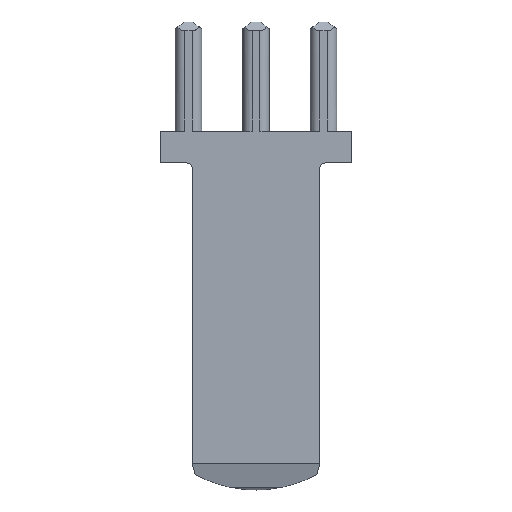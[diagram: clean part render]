
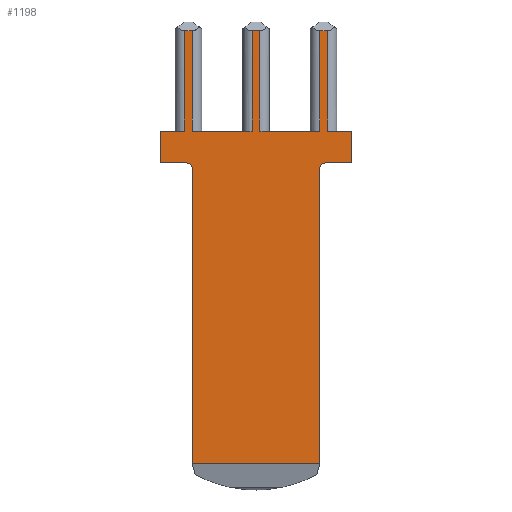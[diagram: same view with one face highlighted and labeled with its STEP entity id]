
A CAD part, front view. The second image highlights one B-rep face of the part: STEP entity #1198.
In plain terms, the highlighted planar face has unit normal (0, -1, 0).
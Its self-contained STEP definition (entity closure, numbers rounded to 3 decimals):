
#163=DIRECTION('',(1.,0.,0.));
#164=VECTOR('',#163,4.8);
#165=CARTESIAN_POINT('',(-2.4,-0.4,-16.6));
#166=LINE('',#165,#164);
#167=DIRECTION('',(0.,0.,1.));
#168=VECTOR('',#167,11.1);
#169=CARTESIAN_POINT('',(-2.4,-0.4,-16.6));
#170=LINE('',#169,#168);
#171=CARTESIAN_POINT('',(-2.6,-0.4,-5.5));
#172=DIRECTION('',(0.,-1.,0.));
#173=DIRECTION('',(1.,0.,0.));
#174=AXIS2_PLACEMENT_3D('',#171,#172,#173);
#176=DIRECTION('',(-1.,0.,0.));
#177=VECTOR('',#176,1.);
#178=CARTESIAN_POINT('',(-2.6,-0.4,-5.3));
#179=LINE('',#178,#177);
#180=DIRECTION('',(0.,0.,1.));
#181=VECTOR('',#180,1.2);
#182=CARTESIAN_POINT('',(-3.6,-0.4,-5.3));
#183=LINE('',#182,#181);
#184=DIRECTION('',(1.,0.,0.));
#185=VECTOR('',#184,0.91);
#186=CARTESIAN_POINT('',(-3.6,-0.4,-4.1));
#187=LINE('',#186,#185);
#188=DIRECTION('',(0.,0.,-1.));
#189=VECTOR('',#188,3.768);
#190=CARTESIAN_POINT('',(-2.69,-0.4,-0.332));
#191=LINE('',#190,#189);
#192=DIRECTION('',(1.,0.,0.));
#193=VECTOR('',#192,0.3);
#194=CARTESIAN_POINT('',(-2.69,-0.4,-0.332));
#195=LINE('',#194,#193);
#196=DIRECTION('',(1.,0.,0.));
#197=VECTOR('',#196,2.24);
#198=CARTESIAN_POINT('',(-2.39,-0.4,-4.1));
#199=LINE('',#198,#197);
#200=DIRECTION('',(0.,0.,-1.));
#201=VECTOR('',#200,3.768);
#202=CARTESIAN_POINT('',(-0.15,-0.4,-0.332));
#203=LINE('',#202,#201);
#204=DIRECTION('',(1.,0.,0.));
#205=VECTOR('',#204,0.3);
#206=CARTESIAN_POINT('',(-0.15,-0.4,-0.332));
#207=LINE('',#206,#205);
#208=DIRECTION('',(1.,0.,0.));
#209=VECTOR('',#208,2.24);
#210=CARTESIAN_POINT('',(0.15,-0.4,-4.1));
#211=LINE('',#210,#209);
#212=DIRECTION('',(0.,0.,-1.));
#213=VECTOR('',#212,3.768);
#214=CARTESIAN_POINT('',(2.39,-0.4,-0.332));
#215=LINE('',#214,#213);
#216=DIRECTION('',(1.,0.,0.));
#217=VECTOR('',#216,0.3);
#218=CARTESIAN_POINT('',(2.39,-0.4,-0.332));
#219=LINE('',#218,#217);
#220=DIRECTION('',(1.,0.,0.));
#221=VECTOR('',#220,0.91);
#222=CARTESIAN_POINT('',(2.69,-0.4,-4.1));
#223=LINE('',#222,#221);
#224=DIRECTION('',(0.,0.,-1.));
#225=VECTOR('',#224,1.2);
#226=CARTESIAN_POINT('',(3.6,-0.4,-4.1));
#227=LINE('',#226,#225);
#228=DIRECTION('',(-1.,0.,0.));
#229=VECTOR('',#228,1.);
#230=CARTESIAN_POINT('',(3.6,-0.4,-5.3));
#231=LINE('',#230,#229);
#232=CARTESIAN_POINT('',(2.6,-0.4,-5.5));
#233=DIRECTION('',(0.,-1.,0.));
#234=DIRECTION('',(0.,0.,1.));
#235=AXIS2_PLACEMENT_3D('',#232,#233,#234);
#237=DIRECTION('',(0.,0.,-1.));
#238=VECTOR('',#237,11.1);
#239=CARTESIAN_POINT('',(2.4,-0.4,-5.5));
#240=LINE('',#239,#238);
#561=DIRECTION('',(0.,0.,-1.));
#562=VECTOR('',#561,3.768);
#563=CARTESIAN_POINT('',(2.69,-0.4,-0.332));
#564=LINE('',#563,#562);
#669=DIRECTION('',(0.,0.,-1.));
#670=VECTOR('',#669,3.768);
#671=CARTESIAN_POINT('',(0.15,-0.4,-0.332));
#672=LINE('',#671,#670);
#723=DIRECTION('',(0.,0.,-1.));
#724=VECTOR('',#723,3.768);
#725=CARTESIAN_POINT('',(-2.39,-0.4,-0.332));
#726=LINE('',#725,#724);
#733=CARTESIAN_POINT('',(3.6,-0.4,-4.1));
#734=CARTESIAN_POINT('',(3.6,-0.4,-5.3));
#735=VERTEX_POINT('',#733);
#736=VERTEX_POINT('',#734);
#737=CARTESIAN_POINT('',(2.6,-0.4,-5.3));
#738=VERTEX_POINT('',#737);
#739=CARTESIAN_POINT('',(-2.6,-0.4,-5.3));
#740=CARTESIAN_POINT('',(-3.6,-0.4,-5.3));
#741=VERTEX_POINT('',#739);
#742=VERTEX_POINT('',#740);
#743=CARTESIAN_POINT('',(-3.6,-0.4,-4.1));
#744=VERTEX_POINT('',#743);
#763=CARTESIAN_POINT('',(-0.15,-0.4,-4.1));
#764=VERTEX_POINT('',#763);
#765=CARTESIAN_POINT('',(0.15,-0.4,-4.1));
#767=VERTEX_POINT('',#765);
#773=CARTESIAN_POINT('',(-2.69,-0.4,-4.1));
#774=VERTEX_POINT('',#773);
#775=CARTESIAN_POINT('',(-2.39,-0.4,-4.1));
#776=VERTEX_POINT('',#775);
#795=CARTESIAN_POINT('',(2.39,-0.4,-4.1));
#796=VERTEX_POINT('',#795);
#797=CARTESIAN_POINT('',(2.69,-0.4,-4.1));
#799=VERTEX_POINT('',#797);
#805=CARTESIAN_POINT('',(-2.4,-0.4,-16.6));
#806=CARTESIAN_POINT('',(2.4,-0.4,-16.6));
#807=VERTEX_POINT('',#805);
#808=VERTEX_POINT('',#806);
#824=CARTESIAN_POINT('',(2.4,-0.4,-5.5));
#825=VERTEX_POINT('',#824);
#826=CARTESIAN_POINT('',(-2.4,-0.4,-5.5));
#827=VERTEX_POINT('',#826);
#834=CARTESIAN_POINT('',(2.39,-0.4,-0.332));
#835=VERTEX_POINT('',#834);
#836=CARTESIAN_POINT('',(-2.69,-0.4,-0.332));
#837=CARTESIAN_POINT('',(-2.39,-0.4,-0.332));
#838=VERTEX_POINT('',#836);
#839=VERTEX_POINT('',#837);
#840=CARTESIAN_POINT('',(-0.15,-0.4,-0.332));
#841=CARTESIAN_POINT('',(0.15,-0.4,-0.332));
#842=VERTEX_POINT('',#840);
#843=VERTEX_POINT('',#841);
#844=CARTESIAN_POINT('',(2.69,-0.4,-0.332));
#845=VERTEX_POINT('',#844);
#1151=CARTESIAN_POINT('',(-0.15,-0.4,0.));
#1152=DIRECTION('',(0.,-1.,0.));
#1153=DIRECTION('',(1.,0.,0.));
#1154=AXIS2_PLACEMENT_3D('',#1151,#1152,#1153);
#1155=PLANE('',#1154);
#1157=ORIENTED_EDGE('',*,*,#1156,.F.);
#1159=ORIENTED_EDGE('',*,*,#1158,.T.);
#1161=ORIENTED_EDGE('',*,*,#1160,.T.);
#1163=ORIENTED_EDGE('',*,*,#1162,.T.);
#1165=ORIENTED_EDGE('',*,*,#1164,.T.);
#1167=ORIENTED_EDGE('',*,*,#1166,.T.);
#1168=ORIENTED_EDGE('',*,*,#1143,.F.);
#1169=ORIENTED_EDGE('',*,*,#988,.T.);
#1171=ORIENTED_EDGE('',*,*,#1170,.T.);
#1173=ORIENTED_EDGE('',*,*,#1172,.T.);
#1175=ORIENTED_EDGE('',*,*,#1174,.F.);
#1176=ORIENTED_EDGE('',*,*,#1007,.T.);
#1178=ORIENTED_EDGE('',*,*,#1177,.T.);
#1180=ORIENTED_EDGE('',*,*,#1179,.T.);
#1182=ORIENTED_EDGE('',*,*,#1181,.F.);
#1183=ORIENTED_EDGE('',*,*,#1026,.T.);
#1185=ORIENTED_EDGE('',*,*,#1184,.T.);
#1187=ORIENTED_EDGE('',*,*,#1186,.T.);
#1189=ORIENTED_EDGE('',*,*,#1188,.T.);
#1191=ORIENTED_EDGE('',*,*,#1190,.T.);
#1193=ORIENTED_EDGE('',*,*,#1192,.T.);
#1195=ORIENTED_EDGE('',*,*,#1194,.T.);
#1196=EDGE_LOOP('',(#1157,#1159,#1161,#1163,#1165,#1167,#1168,#1169,#1171,#1173,
#1175,#1176,#1178,#1180,#1182,#1183,#1185,#1187,#1189,#1191,#1193,#1195));
#1197=FACE_OUTER_BOUND('',#1196,.F.);
#175=CIRCLE('',#174,0.2);
#236=CIRCLE('',#235,0.2);
#988=EDGE_CURVE('',#838,#839,#195,.T.);
#1007=EDGE_CURVE('',#842,#843,#207,.T.);
#1026=EDGE_CURVE('',#835,#845,#219,.T.);
#1143=EDGE_CURVE('',#838,#774,#191,.T.);
#1156=EDGE_CURVE('',#807,#808,#166,.T.);
#1158=EDGE_CURVE('',#807,#827,#170,.T.);
#1160=EDGE_CURVE('',#827,#741,#175,.T.);
#1162=EDGE_CURVE('',#741,#742,#179,.T.);
#1164=EDGE_CURVE('',#742,#744,#183,.T.);
#1166=EDGE_CURVE('',#744,#774,#187,.T.);
#1170=EDGE_CURVE('',#839,#776,#726,.T.);
#1172=EDGE_CURVE('',#776,#764,#199,.T.);
#1174=EDGE_CURVE('',#842,#764,#203,.T.);
#1177=EDGE_CURVE('',#843,#767,#672,.T.);
#1179=EDGE_CURVE('',#767,#796,#211,.T.);
#1181=EDGE_CURVE('',#835,#796,#215,.T.);
#1184=EDGE_CURVE('',#845,#799,#564,.T.);
#1186=EDGE_CURVE('',#799,#735,#223,.T.);
#1188=EDGE_CURVE('',#735,#736,#227,.T.);
#1190=EDGE_CURVE('',#736,#738,#231,.T.);
#1192=EDGE_CURVE('',#738,#825,#236,.T.);
#1194=EDGE_CURVE('',#825,#808,#240,.T.);
#1198=ADVANCED_FACE('',(#1197),#1155,.T.);
